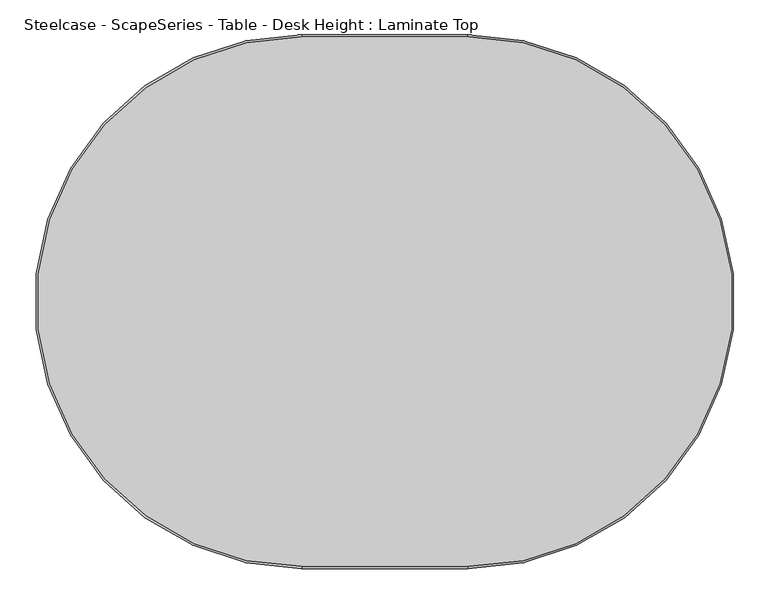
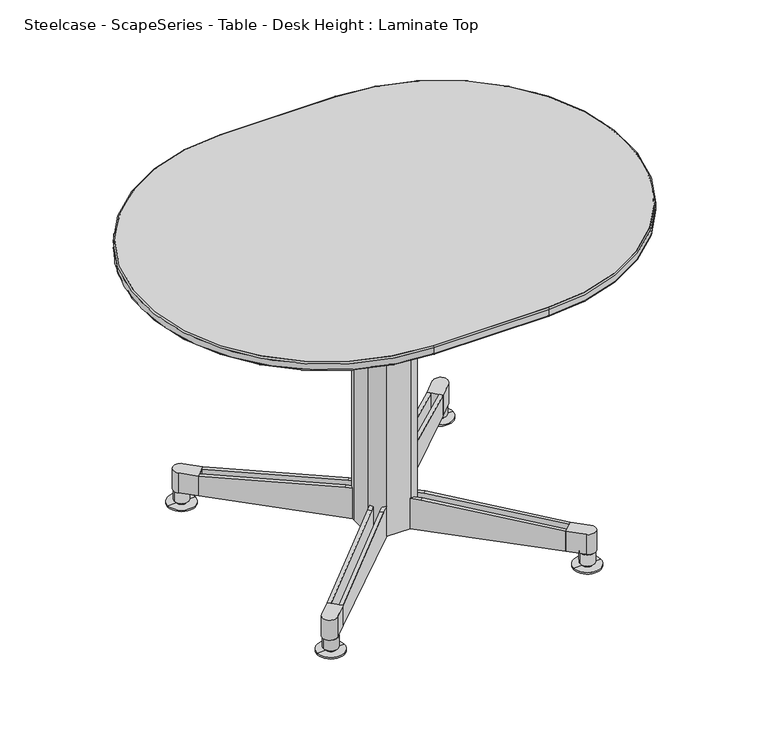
"""IFC4 building model written with IfcOpenShell, lengths in millimetres: furniture geometry, Steelcase - ScapeSeries - Table - Desk Height : Laminate Top."""

from ifc_helpers import new_model, si_unit, point, frame, frame_2d, origin, place, context, project, spatial, polyline, circle_curve, ellipse_curve, trimmed, segment, composite_curve, outline, extrude, source, transform, mapped, element, save
from ifc_brep_helpers import plane_surface, cylinder_surface, revolved_surface, advanced_brep


def steelcase_scapeseries_table_desk_height_laminate_top_100a6fdf(model_context):
    return source(origin(), model_context, "Body", "SolidModel", [
        extrude(outline(composite_curve([segment(polyline([(775.6296182, -670.9730843), (797.8126207, -648.2548062), (826.0804703, -676.5226558)]), True, "CONTINUOUS"), segment(trimmed(circle_curve(frame_2d((814.8551502, -687.7479759)), 15.875), [point((826.0804703, -676.5226558))], [point((803.62983, -698.9732961))], False, "CARTESIAN"), True, "CONTINUOUS"), segment(polyline([(803.62983, -698.9732961), (775.6296182, -670.9730843)]), True, "CONTINUOUS")], self_intersect=False)), frame((0.0, 0.0, 34.5059), z_axis=(0.0, 0.0, 1.0), x_axis=(1.0, 0.0, 0.0)), (0.0, 0.0, 1.0), 46.4657175),
        advanced_brep(
        [(812.6406532, -688.1219197, 0.0), (842.3401939, -688.1219197, 0.0), (782.9411126, -688.1219197, 0.0), (796.6878163, -688.1219197, 34.5059), (828.5934902, -688.1219197, 34.5059), (812.6406532, -688.1219197, 34.5059), (796.6878163, -688.1219197, 9.1059), (828.5934902, -688.1219197, 9.1059), (801.5942376, -688.1219197, 9.1059), (823.6870689, -688.1219197, 9.1059), (801.5942376, -688.1219197, 3.2766), (823.6870689, -688.1219197, 3.2766), (782.9411126, -688.1219197, 3.2766), (842.3401939, -688.1219197, 3.2766)],
        [
            (0, 1),
            (1, 2, circle_curve(frame((812.6406532, -688.1219197, 0.0), z_axis=(0.0, 0.0, -1.0), x_axis=(1.0, 0.0, 0.0)), 29.6995407)),
            (2, 0),
            (2, 1, circle_curve(frame((812.6406532, -688.1219197, 0.0), z_axis=(0.0, 0.0, -1.0), x_axis=(1.0, 0.0, 0.0)), 29.6995407)),
            (3, 4, circle_curve(frame((812.6406532, -688.1219197, 34.5059), z_axis=(0.0, 0.0, 1.0), x_axis=(1.0, 0.0, 0.0)), 15.9528369)),
            (4, 5),
            (5, 3),
            (4, 3, circle_curve(frame((812.6406532, -688.1219197, 34.5059), z_axis=(0.0, 0.0, 1.0), x_axis=(1.0, 0.0, 0.0)), 15.9528369)),
            (6, 7, circle_curve(frame((812.6406532, -688.1219197, 9.1059), z_axis=(0.0, 0.0, 1.0), x_axis=(1.0, 0.0, 0.0)), 15.9528369)),
            (7, 4),
            (3, 6),
            (7, 6, circle_curve(frame((812.6406532, -688.1219197, 9.1059), z_axis=(0.0, 0.0, 1.0), x_axis=(1.0, 0.0, 0.0)), 15.9528369)),
            (8, 9, circle_curve(frame((812.6406532, -688.1219197, 9.1059), z_axis=(0.0, 0.0, 1.0), x_axis=(1.0, 0.0, 0.0)), 11.0464157)),
            (9, 7),
            (6, 8),
            (9, 8, circle_curve(frame((812.6406532, -688.1219197, 9.1059), z_axis=(0.0, 0.0, 1.0), x_axis=(1.0, 0.0, 0.0)), 11.0464157)),
            (10, 11, circle_curve(frame((812.6406532, -688.1219197, 3.2766), z_axis=(0.0, 0.0, 1.0), x_axis=(1.0, 0.0, 0.0)), 11.0464157)),
            (11, 9),
            (8, 10),
            (11, 10, circle_curve(frame((812.6406532, -688.1219197, 3.2766), z_axis=(0.0, 0.0, 1.0), x_axis=(1.0, 0.0, 0.0)), 11.0464157)),
            (12, 13, circle_curve(frame((812.6406532, -688.1219197, 3.2766), z_axis=(0.0, 0.0, 1.0), x_axis=(1.0, 0.0, 0.0)), 29.6995407)),
            (13, 11),
            (10, 12),
            (13, 12, circle_curve(frame((812.6406532, -688.1219197, 3.2766), z_axis=(0.0, 0.0, 1.0), x_axis=(1.0, 0.0, 0.0)), 29.6995407)),
            (1, 13),
            (12, 2),
        ],
        [
            plane_surface(frame((812.6406532, -688.1219197, 0.0), z_axis=(0.0, 0.0, -1.0), x_axis=(1.0, 0.0, 0.0))),
            plane_surface(frame((812.6406532, -688.1219197, 34.5059), z_axis=(0.0, 0.0, 1.0), x_axis=(1.0, 0.0, 0.0))),
            cylinder_surface(frame((812.6406532, -688.1219197, 9.1059), z_axis=(0.0, 0.0, -1.0), x_axis=(1.0, 0.0, 0.0)), 15.9528369),
            plane_surface(frame((812.6406532, -688.1219197, 9.1059), z_axis=(0.0, 0.0, -1.0), x_axis=(1.0, 0.0, 0.0))),
            cylinder_surface(frame((812.6406532, -688.1219197, 9.1059), z_axis=(0.0, 0.0, -1.0), x_axis=(1.0, 0.0, 0.0)), 11.0464157),
            plane_surface(frame((812.6406532, -688.1219197, 3.2766), z_axis=(0.0, 0.0, 1.0), x_axis=(1.0, 0.0, 0.0))),
            cylinder_surface(frame((812.6406532, -688.1219197, 9.1059), z_axis=(0.0, 0.0, -1.0), x_axis=(1.0, 0.0, 0.0)), 29.6995407),
        ],
        [
            (0, [[1, 2, 3]]),
            (0, [[-3, 4, -1]]),
            (1, [[5, 6, 7]]),
            (1, [[8, -7, -6]]),
            (2, [[9, 10, -5, 11]]),
            (2, [[12, -11, -8, -10]]),
            (3, [[13, 14, -9, 15]]),
            (3, [[16, -15, -12, -14]]),
            (4, [[17, 18, -13, 19]]),
            (4, [[20, -19, -16, -18]]),
            (5, [[21, 22, -17, 23]]),
            (5, [[24, -23, -20, -22]]),
            (6, [[-2, 25, -21, 26]]),
            (6, [[-4, -26, -24, -25]]),
        ],
    ),
        advanced_brep(
        [(504.0325184, -352.425, 701.8528138), (478.6325184, -377.825, 701.8528138), (478.6325184, -431.8, 701.8528138), (504.0325184, -457.2, 701.8528138), (558.0075184, -457.2, 701.8528138), (583.4075184, -431.8, 701.8528138), (583.4075184, -377.825, 701.8528138), (558.0075184, -352.425, 701.8528138), (504.0325184, -352.425, 34.5059), (558.0075184, -352.425, 34.5059), (559.6416903, -352.4776238, 34.5059), (777.1247651, -140.1187649, 34.5059), (782.661201, -145.7887949, 34.5059), (568.6468613, -354.7606469, 34.5059), (580.2928069, -365.637879, 34.5059), (793.7824307, -157.1783797, 34.5059), (799.3188665, -162.8484096, 34.5059), (583.1119222, -373.9612055, 34.5059), (583.4075184, -377.825, 34.5059), (583.4075184, -431.8, 34.5059), (582.5724592, -438.2593874, 34.5059), (797.743822, -648.3610015, 34.5059), (792.2073861, -654.0310315, 34.5059), (579.1027628, -445.9474614, 34.5059), (566.3854261, -455.7785459, 34.5059), (781.0861564, -665.4206163, 34.5059), (775.5497206, -671.0906463, 34.5059), (556.680529, -457.3783296, 34.5059), (556.8546569, -457.2, 34.5059), (505.18538, -457.2, 34.5059), (505.3595078, -457.3783296, 34.5059), (286.4903162, -671.0906463, 34.5059), (280.9538804, -665.4206163, 34.5059), (495.6546107, -455.7785459, 34.5059), (482.937274, -445.9474614, 34.5059), (269.8326507, -654.0310315, 34.5059), (264.2962148, -648.3610015, 34.5059), (479.4675776, -438.2593874, 34.5059), (478.6325184, -431.8, 34.5059), (478.6325184, -377.825, 34.5059), (478.9281146, -373.9612055, 34.5059), (262.7211703, -162.8484096, 34.5059), (268.2576061, -157.1783797, 34.5059), (481.7472299, -365.637879, 34.5059), (493.3931755, -354.7606469, 34.5059), (279.3788358, -145.7887949, 34.5059), (284.9152717, -140.1187649, 34.5059), (502.3983465, -352.4776238, 34.5059), (502.3983465, -352.4776238, 104.4067), (493.3931755, -354.7606469, 104.4067), (481.7472299, -365.637879, 104.4067), (478.9281146, -373.9612055, 104.4067), (479.4675776, -438.2593874, 104.4067), (482.937274, -445.9474614, 104.4067), (495.6546107, -455.7785459, 104.4067), (504.0325184, -457.2, 104.4067), (505.18538, -457.2, 104.4067), (556.8546569, -457.2, 104.4067), (558.0075184, -457.2, 104.4067), (566.3854261, -455.7785459, 104.4067), (579.1027628, -445.9474614, 104.4067), (582.5724592, -438.2593874, 104.4067), (583.1119222, -373.9612055, 104.4067), (580.2928069, -365.637879, 104.4067), (568.6468613, -354.7606469, 104.4067), (559.6416903, -352.4776238, 104.4067), (572.1018041, -340.3110883, 104.4067), (777.1247651, -140.1187649, 80.7901888), (782.661201, -145.7887949, 80.7901888), (577.63824, -345.9811182, 104.4067), (588.7594697, -357.370703, 104.4067), (793.7824307, -157.1783797, 80.7901888), (799.3188665, -162.8484096, 80.7901888), (594.2959055, -363.040733, 104.4067), (284.9152717, -140.1187649, 80.7901888), (489.9382327, -340.3110883, 104.4067), (484.4017968, -345.9811182, 104.4067), (279.3788358, -145.7887949, 80.7901888), (268.2576061, -157.1783797, 80.7901888), (473.2805671, -357.370703, 104.4067), (467.7441313, -363.040733, 104.4067), (262.7211703, -162.8484096, 80.7901888), (473.2805671, -455.3766424, 104.4067), (269.8326507, -654.0310315, 80.9716175), (264.2962148, -648.3610015, 80.9716175), (467.7441313, -449.7066124, 104.4067), (505.3595078, -457.3783296, 104.4067), (489.9382327, -472.4362571, 104.4067), (286.4903162, -671.0906463, 80.9716175), (280.9538804, -665.4206163, 80.9716175), (484.4017968, -466.7662272, 104.4067), (792.2073861, -654.0310315, 80.9716175), (588.7594697, -455.3766424, 104.4067), (594.2959055, -449.7066124, 104.4067), (797.743822, -648.3610015, 80.9716175), (775.5497206, -671.0906463, 80.9716175), (572.1018041, -472.4362571, 104.4067), (556.680529, -457.3783296, 104.4067), (577.63824, -466.7662272, 104.4067), (781.0861564, -665.4206163, 80.9716175)],
        [
            (0, 1, circle_curve(frame((504.0325184, -377.825, 701.8528138), z_axis=(0.0, 0.0, 1.0), x_axis=(1.0, 0.0, 0.0)), 25.4)),
            (1, 2),
            (2, 3, circle_curve(frame((504.0325184, -431.8, 701.8528138), z_axis=(0.0, 0.0, 1.0), x_axis=(1.0, 0.0, 0.0)), 25.4)),
            (3, 4),
            (4, 5, circle_curve(frame((558.0075184, -431.8, 701.8528138), z_axis=(0.0, 0.0, 1.0), x_axis=(1.0, 0.0, 0.0)), 25.4)),
            (5, 6),
            (6, 7, circle_curve(frame((558.0075184, -377.825, 701.8528138), z_axis=(0.0, 0.0, 1.0), x_axis=(1.0, 0.0, 0.0)), 25.4)),
            (7, 0),
            (8, 9),
            (9, 10, circle_curve(frame((558.0075184, -377.825, 34.5059), z_axis=(0.0, 0.0, -1.0), x_axis=(1.0, 0.0, 0.0)), 25.4)),
            (10, 11),
            (11, 12),
            (12, 13),
            (13, 14, circle_curve(frame((558.0075184, -377.825, 34.5059), z_axis=(0.0, 0.0, -1.0), x_axis=(1.0, 0.0, 0.0)), 25.4)),
            (14, 15),
            (15, 16),
            (16, 17),
            (17, 18, circle_curve(frame((558.0075184, -377.825, 34.5059), z_axis=(0.0, 0.0, -1.0), x_axis=(1.0, 0.0, 0.0)), 25.4)),
            (18, 19),
            (19, 20, circle_curve(frame((558.0075184, -431.8, 34.5059), z_axis=(0.0, 0.0, -1.0), x_axis=(1.0, 0.0, 0.0)), 25.4)),
            (20, 21),
            (21, 22),
            (22, 23),
            (23, 24, circle_curve(frame((558.0075184, -431.8, 34.5059), z_axis=(0.0, 0.0, -1.0), x_axis=(1.0, 0.0, 0.0)), 25.4)),
            (24, 25),
            (25, 26),
            (26, 27),
            (27, 28),
            (28, 29),
            (29, 30),
            (30, 31),
            (31, 32),
            (32, 33),
            (33, 34, circle_curve(frame((504.0325184, -431.8, 34.5059), z_axis=(0.0, 0.0, -1.0), x_axis=(1.0, 0.0, 0.0)), 25.4)),
            (34, 35),
            (35, 36),
            (36, 37),
            (37, 38, circle_curve(frame((504.0325184, -431.8, 34.5059), z_axis=(0.0, 0.0, -1.0), x_axis=(1.0, 0.0, 0.0)), 25.4)),
            (38, 39),
            (39, 40, circle_curve(frame((504.0325184, -377.825, 34.5059), z_axis=(0.0, 0.0, -1.0), x_axis=(1.0, 0.0, 0.0)), 25.4)),
            (40, 41),
            (41, 42),
            (42, 43),
            (43, 44, circle_curve(frame((504.0325184, -377.825, 34.5059), z_axis=(0.0, 0.0, -1.0), x_axis=(1.0, 0.0, 0.0)), 25.4)),
            (44, 45),
            (45, 46),
            (46, 47),
            (47, 8, circle_curve(frame((504.0325184, -377.825, 34.5059), z_axis=(0.0, 0.0, -1.0), x_axis=(1.0, 0.0, 0.0)), 25.4)),
            (0, 8),
            (47, 48),
            (48, 49, circle_curve(frame((504.0325184, -377.825, 104.4067), z_axis=(0.0, 0.0, 1.0), x_axis=(1.0, 0.0, 0.0)), 25.4)),
            (49, 44),
            (43, 50),
            (50, 51, circle_curve(frame((504.0325184, -377.825, 104.4067), z_axis=(0.0, 0.0, 1.0), x_axis=(1.0, 0.0, 0.0)), 25.4)),
            (51, 40),
            (39, 1),
            (38, 2),
            (37, 52),
            (52, 53, circle_curve(frame((504.0325184, -431.8, 104.4067), z_axis=(0.0, 0.0, 1.0), x_axis=(1.0, 0.0, 0.0)), 25.4)),
            (53, 34),
            (33, 54),
            (54, 55, circle_curve(frame((504.0325184, -431.8, 104.4067), z_axis=(0.0, 0.0, 1.0), x_axis=(1.0, 0.0, 0.0)), 25.4)),
            (55, 3),
            (55, 56),
            (56, 29),
            (28, 57),
            (57, 58),
            (58, 4),
            (58, 59, circle_curve(frame((558.0075184, -431.8, 104.4067), z_axis=(0.0, 0.0, 1.0), x_axis=(1.0, 0.0, 0.0)), 25.4)),
            (59, 24),
            (23, 60),
            (60, 61, circle_curve(frame((558.0075184, -431.8, 104.4067), z_axis=(0.0, 0.0, 1.0), x_axis=(1.0, 0.0, 0.0)), 25.4)),
            (61, 20),
            (19, 5),
            (18, 6),
            (17, 62),
            (62, 63, circle_curve(frame((558.0075184, -377.825, 104.4067), z_axis=(0.0, 0.0, 1.0), x_axis=(1.0, 0.0, 0.0)), 25.4)),
            (63, 14),
            (13, 64),
            (64, 65, circle_curve(frame((558.0075184, -377.825, 104.4067), z_axis=(0.0, 0.0, 1.0), x_axis=(1.0, 0.0, 0.0)), 25.4)),
            (65, 10),
            (9, 7),
            (66, 67),
            (67, 11),
            (65, 66),
            (12, 68),
            (68, 69),
            (69, 64),
            (69, 66),
            (68, 67),
            (70, 71),
            (71, 15),
            (63, 70),
            (16, 72),
            (72, 73),
            (73, 62),
            (73, 70),
            (72, 71),
            (46, 74),
            (74, 75),
            (75, 48),
            (76, 77),
            (77, 45),
            (49, 76),
            (77, 74),
            (76, 75),
            (42, 78),
            (78, 79),
            (79, 50),
            (80, 81),
            (81, 41),
            (51, 80),
            (81, 78),
            (80, 79),
            (82, 83),
            (83, 35),
            (53, 82),
            (36, 84),
            (84, 85),
            (85, 52),
            (85, 82),
            (84, 83),
            (30, 86),
            (86, 87),
            (87, 88),
            (88, 31),
            (32, 89),
            (89, 90),
            (90, 54),
            (56, 86),
            (90, 87),
            (89, 88),
            (22, 91),
            (91, 92),
            (92, 60),
            (93, 94),
            (94, 21),
            (61, 93),
            (94, 91),
            (93, 92),
            (26, 95),
            (95, 96),
            (96, 97),
            (97, 27),
            (98, 99),
            (99, 25),
            (59, 98),
            (99, 95),
            (98, 96),
            (57, 97),
        ],
        [
            plane_surface(frame((529.4325184, -377.825, 701.8528138), z_axis=(0.0, 0.0, 1.0), x_axis=(0.0, 1.0, 0.0))),
            plane_surface(frame((529.4325184, -377.825, 34.5059), z_axis=(0.0, 0.0, -1.0), x_axis=(0.0, -1.0, 0.0))),
            cylinder_surface(frame((504.0325184, -377.825, 34.5059), z_axis=(0.0, 0.0, 1.0), x_axis=(1.0, 0.0, 0.0)), 25.4),
            plane_surface(frame((478.6325184, -377.825, 701.8528138), z_axis=(-1.0, 0.0, 0.0), x_axis=(0.0, 0.0, -1.0))),
            cylinder_surface(frame((504.0325184, -431.8, 34.5059), z_axis=(0.0, 0.0, 1.0), x_axis=(1.0, 0.0, 0.0)), 25.4),
            plane_surface(frame((504.0325184, -457.2, 701.8528138), z_axis=(0.0, -1.0, 0.0), x_axis=(0.0, 0.0, -1.0))),
            cylinder_surface(frame((558.0075184, -431.8, 34.5059), z_axis=(0.0, 0.0, 1.0), x_axis=(1.0, 0.0, 0.0)), 25.4),
            plane_surface(frame((583.4075184, -431.8, 701.8528138), z_axis=(1.0, 0.0, 0.0), x_axis=(0.0, 0.0, -1.0))),
            cylinder_surface(frame((558.0075184, -377.825, 34.5059), z_axis=(0.0, 0.0, 1.0), x_axis=(1.0, 0.0, 0.0)), 25.4),
            plane_surface(frame((558.0075184, -352.425, 701.8528138), z_axis=(0.0, 1.0, 0.0), x_axis=(0.0, 0.0, -1.0))),
            plane_surface(frame((737.5056053, -178.80444, 34.5059), z_axis=(-0.6986276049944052, 0.7154854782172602, 0.0), x_axis=(-0.7154854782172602, -0.6986276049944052, 0.0))),
            plane_surface(frame((743.0420411, -184.47447, 34.5059), z_axis=(0.6986276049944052, -0.7154854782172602, 0.0), x_axis=(0.7154854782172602, 0.6986276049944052, 0.0))),
            plane_surface(frame((556.680529, -355.3690158, 104.4067), z_axis=(0.0, 0.0, 1.0), x_axis=(0.6986276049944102, -0.7154854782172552, 0.0))),
            plane_surface(frame((572.1018041, -340.3110883, 104.4067), z_axis=(0.05876854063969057, 0.05738386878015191, 0.9966209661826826), x_axis=(0.6986276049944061, -0.7154854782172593, 0.0))),
            plane_surface(frame((777.1247651, -140.1187649, 80.7901888), z_axis=(0.7154854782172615, 0.6986276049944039, 0.0), x_axis=(0.6986276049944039, -0.7154854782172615, 0.0))),
            plane_surface(frame((754.1632708, -195.8640548, 34.5059), z_axis=(-0.6986276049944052, 0.71548547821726, 0.0), x_axis=(-0.71548547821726, -0.6986276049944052, 0.0))),
            plane_surface(frame((759.6997067, -201.5340847, 34.5059), z_axis=(0.6986276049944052, -0.71548547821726, 0.0), x_axis=(0.71548547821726, 0.6986276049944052, 0.0))),
            plane_surface(frame((573.3381946, -372.4286306, 104.4067), z_axis=(0.0, 0.0, 1.0000000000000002), x_axis=(0.6986276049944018, -0.7154854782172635, 0.0))),
            plane_surface(frame((588.7594697, -357.370703, 104.4067), z_axis=(0.058768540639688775, 0.05738386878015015, 0.9966209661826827), x_axis=(0.698627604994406, -0.7154854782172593, 0.0))),
            plane_surface(frame((793.7824307, -157.1783797, 80.7901888), z_axis=(0.7154854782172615, 0.6986276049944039, 0.0), x_axis=(0.6986276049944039, -0.7154854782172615, 0.0))),
            plane_surface(frame((284.9152717, -140.1187649, 75.7808986), z_axis=(0.6986276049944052, 0.71548547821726, 0.0), x_axis=(0.0, 0.0, 1.0))),
            plane_surface(frame((279.3788358, -145.7887949, 75.7808986), z_axis=(-0.6986276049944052, -0.71548547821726, 0.0), x_axis=(0.0, 0.0, -1.0))),
            plane_surface(frame((284.9152717, -140.1187649, 34.5059), z_axis=(-0.7154854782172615, 0.6986276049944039, 0.0), x_axis=(-0.6986276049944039, -0.7154854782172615, 0.0))),
            plane_surface(frame((284.9152717, -140.1187649, 80.7901888), z_axis=(-0.05876854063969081, 0.05738386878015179, 0.9966209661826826), x_axis=(-0.6986276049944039, -0.7154854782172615, 0.0))),
            plane_surface(frame((489.9382327, -340.3110883, 104.4067), z_axis=(0.0, 0.0, 1.0000000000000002), x_axis=(-0.6986276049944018, -0.7154854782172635, 0.0))),
            plane_surface(frame((268.2576061, -157.1783797, 75.7808986), z_axis=(0.6986276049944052, 0.71548547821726, 0.0), x_axis=(0.0, 0.0, 1.0))),
            plane_surface(frame((262.7211703, -162.8484096, 75.7808986), z_axis=(-0.6986276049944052, -0.71548547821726, 0.0), x_axis=(0.0, 0.0, -1.0))),
            plane_surface(frame((268.2576061, -157.1783797, 34.5059), z_axis=(-0.7154854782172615, 0.6986276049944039, 0.0), x_axis=(-0.6986276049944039, -0.7154854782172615, 0.0))),
            plane_surface(frame((268.2576061, -157.1783797, 80.7901888), z_axis=(-0.05876854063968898, 0.057383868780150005, 0.9966209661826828), x_axis=(-0.6986276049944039, -0.7154854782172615, 0.0))),
            plane_surface(frame((473.2805671, -357.370703, 104.4067), z_axis=(0.0, 0.0, 1.0000000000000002), x_axis=(-0.6986276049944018, -0.7154854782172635, 0.0))),
            plane_surface(frame((307.876766, -616.8832906, 34.5059), z_axis=(0.6986276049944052, -0.71548547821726, 0.0), x_axis=(0.71548547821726, 0.6986276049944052, 0.0))),
            plane_surface(frame((302.3403301, -611.2132607, 34.5059), z_axis=(-0.6986276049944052, 0.71548547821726, 0.0), x_axis=(-0.71548547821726, -0.6986276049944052, 0.0))),
            plane_surface(frame((488.7018423, -440.3187148, 104.4067), z_axis=(0.0, 0.0, 1.0000000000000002), x_axis=(-0.6986276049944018, 0.7154854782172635, 0.0))),
            plane_surface(frame((473.2805671, -455.3766424, 104.4067), z_axis=(-0.05876854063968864, -0.05738386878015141, 0.9966209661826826), x_axis=(-0.6986276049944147, 0.7154854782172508, 0.0))),
            plane_surface(frame((269.8326507, -654.0310315, 80.9716175), z_axis=(-0.7154854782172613, -0.6986276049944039, 0.0), x_axis=(-0.6986276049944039, 0.7154854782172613, 0.0))),
            plane_surface(frame((324.5344315, -633.9429054, 34.5059), z_axis=(0.6986276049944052, -0.71548547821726, 0.0), x_axis=(0.71548547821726, 0.6986276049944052, 0.0))),
            plane_surface(frame((318.9979957, -628.2728754, 34.5059), z_axis=(-0.6986276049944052, 0.71548547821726, 0.0), x_axis=(-0.71548547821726, -0.6986276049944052, 0.0))),
            plane_surface(frame((505.3595078, -457.3783296, 34.5059), z_axis=(0.7154854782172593, 0.6986276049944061, 0.0), x_axis=(-0.6986276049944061, 0.7154854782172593, 0.0))),
            plane_surface(frame((505.3595078, -457.3783296, 104.4067), z_axis=(0.0, 0.0, 1.0), x_axis=(-0.6986276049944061, 0.7154854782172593, 0.0))),
            plane_surface(frame((489.9382327, -472.4362571, 104.4067), z_axis=(-0.058768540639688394, -0.057383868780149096, 0.9966209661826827), x_axis=(-0.6986276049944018, 0.7154854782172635, 0.0))),
            plane_surface(frame((286.4903162, -671.0906463, 80.9716175), z_axis=(-0.7154854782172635, -0.6986276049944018, 0.0), x_axis=(-0.6986276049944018, 0.7154854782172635, 0.0))),
            plane_surface(frame((792.2073861, -654.0310315, 75.7808986), z_axis=(-0.6986276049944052, -0.71548547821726, 0.0), x_axis=(0.0, 0.0, 1.0))),
            plane_surface(frame((797.743822, -648.3610015, 75.7808986), z_axis=(0.6986276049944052, 0.71548547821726, 0.0), x_axis=(0.0, 0.0, -1.0))),
            plane_surface(frame((792.2073861, -654.0310315, 34.5059), z_axis=(0.7154854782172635, -0.6986276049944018, 0.0), x_axis=(0.6986276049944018, 0.7154854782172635, 0.0))),
            plane_surface(frame((792.2073861, -654.0310315, 80.9716175), z_axis=(0.058768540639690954, -0.057383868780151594, 0.9966209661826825), x_axis=(0.6986276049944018, 0.7154854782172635, 0.0))),
            plane_surface(frame((588.7594697, -455.3766424, 104.4067), z_axis=(0.0, 0.0, 1.0000000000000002), x_axis=(0.6986276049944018, 0.7154854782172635, 0.0))),
            plane_surface(frame((775.5497206, -671.0906463, 75.7808986), z_axis=(-0.6986276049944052, -0.71548547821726, 0.0), x_axis=(0.0, 0.0, 1.0))),
            plane_surface(frame((781.0861564, -665.4206163, 75.7808986), z_axis=(0.6986276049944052, 0.71548547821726, 0.0), x_axis=(0.0, 0.0, -1.0))),
            plane_surface(frame((775.5497206, -671.0906463, 34.5059), z_axis=(0.7154854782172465, -0.698627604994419, 0.0), x_axis=(0.698627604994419, 0.7154854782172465, 0.0))),
            plane_surface(frame((775.5497206, -671.0906463, 80.9716175), z_axis=(0.058768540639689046, -0.057383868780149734, 0.9966209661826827), x_axis=(0.6986276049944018, 0.7154854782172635, 0.0))),
            plane_surface(frame((572.1018041, -472.4362571, 104.4067), z_axis=(0.0, 0.0, 1.0000000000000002), x_axis=(0.6986276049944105, 0.715485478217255, 0.0))),
            plane_surface(frame((556.680529, -457.3783296, 104.4067), z_axis=(-0.7154854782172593, 0.698627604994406, 0.0), x_axis=(0.698627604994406, 0.7154854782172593, 0.0))),
        ],
        [
            (0, [[1, 2, 3, 4, 5, 6, 7, 8]]),
            (1, [[9, 10, 11, 12, 13, 14, 15, 16, 17, 18, 19, 20, 21, 22, 23, 24, 25, 26, 27, 28, 29, 30, 31, 32, 33, 34, 35, 36, 37, 38, 39, 40, 41, 42, 43, 44, 45, 46, 47, 48]]),
            (2, [[-1, 49, -48, 50, 51, 52, -44, 53, 54, 55, -40, 56]]),
            (3, [[-2, -56, -39, 57]]),
            (4, [[-3, -57, -38, 58, 59, 60, -34, 61, 62, 63]]),
            (5, [[-4, -63, 64, 65, -29, 66, 67, 68]]),
            (6, [[-5, -68, 69, 70, -24, 71, 72, 73, -20, 74]]),
            (7, [[-6, -74, -19, 75]]),
            (8, [[-7, -75, -18, 76, 77, 78, -14, 79, 80, 81, -10, 82]]),
            (9, [[-8, -82, -9, -49]]),
            (10, [[83, 84, -11, -81, 85]]),
            (11, [[86, 87, 88, -79, -13]]),
            (12, [[89, -85, -80, -88]]),
            (13, [[-83, -89, -87, 90]]),
            (14, [[-84, -90, -86, -12]]),
            (15, [[91, 92, -15, -78, 93]]),
            (16, [[94, 95, 96, -76, -17]]),
            (17, [[97, -93, -77, -96]]),
            (18, [[-91, -97, -95, 98]]),
            (19, [[-92, -98, -94, -16]]),
            (20, [[99, 100, 101, -50, -47]]),
            (21, [[102, 103, -45, -52, 104]]),
            (22, [[-99, -46, -103, 105]]),
            (23, [[-100, -105, -102, 106]]),
            (24, [[-106, -104, -51, -101]]),
            (25, [[107, 108, 109, -53, -43]]),
            (26, [[110, 111, -41, -55, 112]]),
            (27, [[-107, -42, -111, 113]]),
            (28, [[-108, -113, -110, 114]]),
            (29, [[-114, -112, -54, -109]]),
            (30, [[115, 116, -35, -60, 117]]),
            (31, [[118, 119, 120, -58, -37]]),
            (32, [[121, -117, -59, -120]]),
            (33, [[-115, -121, -119, 122]]),
            (34, [[-116, -122, -118, -36]]),
            (35, [[-31, 123, 124, 125, 126]]),
            (36, [[127, 128, 129, -61, -33]]),
            (37, [[-123, -30, -65, 130]]),
            (38, [[-124, -130, -64, -62, -129, 131]]),
            (39, [[-125, -131, -128, 132]]),
            (40, [[-126, -132, -127, -32]]),
            (41, [[133, 134, 135, -71, -23]]),
            (42, [[136, 137, -21, -73, 138]]),
            (43, [[-133, -22, -137, 139]]),
            (44, [[-134, -139, -136, 140]]),
            (45, [[-140, -138, -72, -135]]),
            (46, [[141, 142, 143, 144, -27]]),
            (47, [[145, 146, -25, -70, 147]]),
            (48, [[-141, -26, -146, 148]]),
            (49, [[-142, -148, -145, 149]]),
            (50, [[-143, -149, -147, -69, -67, 150]]),
            (51, [[-144, -150, -66, -28]]),
        ],
    ),
        extrude(outline(composite_curve([segment(polyline([(403.549088, -3.1755215), (657.1455263, -3.1755215)]), True, "CONTINUOUS"), segment(trimmed(circle_curve(frame_2d((657.1455263, -406.4351296)), 403.2596081), [point((657.1455263, -3.1755215))], [point((657.1455263, -809.6947377))], False, "CARTESIAN"), True, "CONTINUOUS"), segment(polyline([(657.1455263, -809.6947377), (403.549088, -809.6947377)]), True, "CONTINUOUS"), segment(trimmed(circle_curve(frame_2d((403.549088, -406.4351296)), 403.2596081), [point((403.549088, -809.6947377))], [point((403.549088, -3.1755215))], False, "CARTESIAN"), True, "CONTINUOUS")], self_intersect=False)), frame((0.0, 0.0, 706.4248), z_axis=(0.0, 0.0, 1.0), x_axis=(1.0, 0.0, 0.0)), (0.0, 0.0, 1.0), 20.0660138),
        advanced_brep(
        [(403.549088, -812.8000242, 709.5998242), (403.549088, -0.0004973, 709.5998242), (403.549088, -3.1755215, 706.4248), (403.549088, -809.625, 706.4248), (403.549088, -812.8000242, 723.3157896), (403.549088, -0.0004973, 723.3157896), (403.549088, -809.625, 726.4908138), (403.549088, -3.1755215, 726.4908138), (656.435316, -809.625, 706.4248), (656.435316, -812.8000242, 709.5998242), (656.435316, -812.8000242, 723.3157896), (656.435316, -809.625, 726.4908138), (656.435316, -0.0004973, 709.5998242), (656.435316, -3.1755215, 706.4248), (656.435316, -0.0004973, 723.3157896), (656.435316, -3.1755215, 726.4908138)],
        [
            (0, 1, circle_curve(frame((403.549088, -406.4002608, 709.5998242), z_axis=(0.0, 0.0, -1.0), x_axis=(0.0, 1.0, 0.0)), 406.3997635)),
            (1, 2, circle_curve(frame((403.549088, -3.1755215, 709.5998242), z_axis=(-1.0, 0.0, 0.0), x_axis=(0.0, -1.0, 0.0)), 3.1750242)),
            (2, 3, circle_curve(frame((403.549088, -406.4002608, 706.4248), z_axis=(0.0, 0.0, 1.0), x_axis=(0.0, 1.0, 0.0)), 403.2247392)),
            (3, 0, circle_curve(frame((403.549088, -809.625, 709.5998242), z_axis=(-1.0, 0.0, 0.0), x_axis=(0.0, 1.0, 0.0)), 3.1750242)),
            (4, 5, circle_curve(frame((403.549088, -406.4002608, 723.3157896), z_axis=(0.0, 0.0, -1.0), x_axis=(0.0, 1.0, 0.0)), 406.3997635)),
            (5, 1),
            (0, 4),
            (6, 7, circle_curve(frame((403.549088, -406.4002608, 726.4908138), z_axis=(0.0, 0.0, -1.0), x_axis=(0.0, 1.0, 0.0)), 403.2247392)),
            (7, 5, circle_curve(frame((403.549088, -3.1755215, 723.3157896), z_axis=(-1.0, 0.0, 0.0), x_axis=(0.0, -1.0, 0.0)), 3.1750242)),
            (4, 6, circle_curve(frame((403.549088, -809.625, 723.3157896), z_axis=(-1.0, 0.0, 0.0), x_axis=(0.0, 1.0, 0.0)), 3.1750242)),
            (2, 7),
            (6, 3),
            (3, 8),
            (8, 9, circle_curve(frame((656.435316, -809.625, 709.5998242), z_axis=(-1.0, 0.0, 0.0), x_axis=(0.0, 1.0, 0.0)), 3.1750242)),
            (9, 0),
            (9, 10),
            (10, 4),
            (10, 11, circle_curve(frame((656.435316, -809.625, 723.3157896), z_axis=(-1.0, 0.0, 0.0), x_axis=(0.0, 1.0, 0.0)), 3.1750242)),
            (11, 6),
            (11, 8),
            (12, 9, circle_curve(frame((656.435316, -406.4002608, 709.5998242), z_axis=(0.0, 0.0, -1.0), x_axis=(0.0, -1.0, 0.0)), 406.3997635)),
            (8, 13, circle_curve(frame((656.435316, -406.4002608, 706.4248), z_axis=(0.0, 0.0, 1.0), x_axis=(0.0, -1.0, 0.0)), 403.2247392)),
            (13, 12, circle_curve(frame((656.435316, -3.1755215, 709.5998242), z_axis=(1.0, 0.0, 0.0), x_axis=(0.0, -1.0, 0.0)), 3.1750242)),
            (14, 10, circle_curve(frame((656.435316, -406.4002608, 723.3157896), z_axis=(0.0, 0.0, -1.0), x_axis=(0.0, -1.0, 0.0)), 406.3997635)),
            (12, 14),
            (15, 11, circle_curve(frame((656.435316, -406.4002608, 726.4908138), z_axis=(0.0, 0.0, -1.0), x_axis=(0.0, -1.0, 0.0)), 403.2247392)),
            (14, 15, circle_curve(frame((656.435316, -3.1755215, 723.3157896), z_axis=(1.0, 0.0, 0.0), x_axis=(0.0, -1.0, 0.0)), 3.1750242)),
            (15, 13),
            (13, 2),
            (1, 12),
            (5, 14),
            (7, 15),
        ],
        [
            revolved_surface(trimmed(ellipse_curve(frame((403.549088, -3.1755215, 709.5998242), z_axis=(1.0, 0.0, 0.0), x_axis=(0.0, -1.0, 0.0)), 3.1750242, 3.1750242), [point((403.549088, -3.1755215, 706.4248))], [point((403.549088, -0.0004973, 709.5998242))], True, "CARTESIAN"), (403.549088, -406.4002608, 139.6974738), (0.0, 0.0, 1.0)),
            cylinder_surface(frame((403.549088, -406.4002608, 139.6974738), z_axis=(0.0, 0.0, 1.0), x_axis=(0.0, 1.0, 0.0)), 406.3997635),
            revolved_surface(trimmed(ellipse_curve(frame((403.549088, -3.1755215, 723.3157896), z_axis=(1.0, 0.0, 0.0), x_axis=(0.0, -1.0, 0.0)), 3.1750242, 3.1750242), [point((403.549088, -0.0004973, 723.3157896))], [point((403.549088, -3.1755215, 726.4908138))], True, "CARTESIAN"), (403.549088, -406.4002608, 139.6974738), (0.0, 0.0, 1.0)),
            revolved_surface(polyline([(403.549088, -3.1755216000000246, 726.4908138), (403.549088, -3.1755216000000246, 706.4248)]), (403.549088, -406.4002608, 139.6974738), (0.0, 0.0, 1.0)),
            cylinder_surface(frame((403.549088, -809.625, 709.5998242), z_axis=(-1.0, 0.0, 0.0), x_axis=(0.0, 1.0, 0.0)), 3.1750242),
            plane_surface(frame((403.549088, -812.8000242, 709.5998242), z_axis=(0.0, -1.0, 0.0), x_axis=(1.0, 0.0, 0.0))),
            cylinder_surface(frame((403.549088, -809.625, 723.3157896), z_axis=(-1.0, 0.0, 0.0), x_axis=(0.0, 1.0, 0.0)), 3.1750242),
            plane_surface(frame((403.549088, -809.625, 726.4908138), z_axis=(0.0, 1.0, 0.0), x_axis=(1.0, 0.0, 0.0))),
            revolved_surface(trimmed(ellipse_curve(frame((656.435316, -809.625, 709.5998242), z_axis=(-1.0, 0.0, 0.0), x_axis=(0.0, 1.0, 0.0)), 3.1750242, 3.1750242), [point((656.435316, -809.625, 706.4248))], [point((656.435316, -812.8000242, 709.5998242))], True, "CARTESIAN"), (656.435316, -406.4002608, 139.6974738), (0.0, 0.0, 1.0)),
            cylinder_surface(frame((656.435316, -406.4002608, 139.6974738), z_axis=(0.0, 0.0, 1.0), x_axis=(0.0, -1.0, 0.0)), 406.3997635),
            revolved_surface(trimmed(ellipse_curve(frame((656.435316, -809.625, 723.3157896), z_axis=(-1.0, 0.0, 0.0), x_axis=(0.0, 1.0, 0.0)), 3.1750242, 3.1750242), [point((656.435316, -812.8000242, 723.3157896))], [point((656.435316, -809.625, 726.4908138))], True, "CARTESIAN"), (656.435316, -406.4002608, 139.6974738), (0.0, 0.0, 1.0)),
            revolved_surface(polyline([(656.435316, -809.625, 726.4908138), (656.435316, -809.625, 706.4248)]), (656.435316, -406.4002608, 139.6974738), (0.0, 0.0, 1.0)),
            cylinder_surface(frame((656.435316, -3.1755215, 709.5998242), z_axis=(1.0, 0.0, 0.0), x_axis=(0.0, -1.0, 0.0)), 3.1750242),
            plane_surface(frame((656.435316, -0.0004973, 709.5998242), z_axis=(0.0, 1.0, 0.0), x_axis=(-1.0, 0.0, 0.0))),
            cylinder_surface(frame((656.435316, -3.1755215, 723.3157896), z_axis=(1.0, 0.0, 0.0), x_axis=(0.0, -1.0, 0.0)), 3.1750242),
            plane_surface(frame((656.435316, -3.1755215, 726.4908138), z_axis=(0.0, -1.0, 0.0), x_axis=(-1.0, 0.0, 0.0))),
        ],
        [
            (0, [[1, 2, 3, 4]]),
            (1, [[5, 6, -1, 7]]),
            (2, [[8, 9, -5, 10]]),
            (3, [[-3, 11, -8, 12]]),
            (4, [[-4, 13, 14, 15]]),
            (5, [[-7, -15, 16, 17]]),
            (6, [[-10, -17, 18, 19]]),
            (7, [[-12, -19, 20, -13]]),
            (8, [[21, -14, 22, 23]]),
            (9, [[24, -16, -21, 25]]),
            (10, [[26, -18, -24, 27]]),
            (11, [[-22, -20, -26, 28]]),
            (12, [[-23, 29, -2, 30]]),
            (13, [[-25, -30, -6, 31]]),
            (14, [[-27, -31, -9, 32]]),
            (15, [[-28, -32, -11, -29]]),
        ],
    ),
        extrude(outline(composite_curve([segment(polyline([(286.4104186, -670.9730843), (258.4102068, -698.9732961)]), True, "CONTINUOUS"), segment(trimmed(circle_curve(frame_2d((247.1848866, -687.7479759)), 15.875), [point((258.4102068, -698.9732961))], [point((235.9595665, -676.5226558))], False, "CARTESIAN"), True, "CONTINUOUS"), segment(polyline([(235.9595665, -676.5226558), (264.2274161, -648.2548062), (286.4104186, -670.9730843)]), True, "CONTINUOUS")], self_intersect=False)), frame((0.0, 0.0, 34.5059), z_axis=(0.0, 0.0, 1.0), x_axis=(1.0, 0.0, 0.0)), (0.0, 0.0, 1.0), 46.4657175),
        advanced_brep(
        [(279.0989243, -688.1219197, 3.2766), (219.6998429, -688.1219197, 3.2766), (219.6998429, -688.1219197, 0.0), (279.0989243, -688.1219197, 0.0), (260.4457993, -688.1219197, 3.2766), (238.3529679, -688.1219197, 3.2766), (260.4457993, -688.1219197, 9.1059), (238.3529679, -688.1219197, 9.1059), (265.3522205, -688.1219197, 9.1059), (233.4465467, -688.1219197, 9.1059), (265.3522205, -688.1219197, 34.5059), (233.4465467, -688.1219197, 34.5059), (249.3993836, -688.1219197, 34.5059), (249.3993836, -688.1219197, 0.0)],
        [
            (0, 1, circle_curve(frame((249.3993836, -688.1219197, 3.2766), z_axis=(0.0, 0.0, -1.0), x_axis=(-1.0, 0.0, 0.0)), 29.6995407)),
            (1, 2),
            (2, 3, circle_curve(frame((249.3993836, -688.1219197, 0.0), z_axis=(0.0, 0.0, 1.0), x_axis=(-1.0, 0.0, 0.0)), 29.6995407)),
            (3, 0),
            (1, 0, circle_curve(frame((249.3993836, -688.1219197, 3.2766), z_axis=(0.0, 0.0, -1.0), x_axis=(-1.0, 0.0, 0.0)), 29.6995407)),
            (3, 2, circle_curve(frame((249.3993836, -688.1219197, 0.0), z_axis=(0.0, 0.0, 1.0), x_axis=(-1.0, 0.0, 0.0)), 29.6995407)),
            (4, 5, circle_curve(frame((249.3993836, -688.1219197, 3.2766), z_axis=(0.0, 0.0, -1.0), x_axis=(-1.0, 0.0, 0.0)), 11.0464157)),
            (5, 1),
            (0, 4),
            (5, 4, circle_curve(frame((249.3993836, -688.1219197, 3.2766), z_axis=(0.0, 0.0, -1.0), x_axis=(-1.0, 0.0, 0.0)), 11.0464157)),
            (6, 7, circle_curve(frame((249.3993836, -688.1219197, 9.1059), z_axis=(0.0, 0.0, -1.0), x_axis=(-1.0, 0.0, 0.0)), 11.0464157)),
            (7, 5),
            (4, 6),
            (7, 6, circle_curve(frame((249.3993836, -688.1219197, 9.1059), z_axis=(0.0, 0.0, -1.0), x_axis=(-1.0, 0.0, 0.0)), 11.0464157)),
            (8, 9, circle_curve(frame((249.3993836, -688.1219197, 9.1059), z_axis=(0.0, 0.0, -1.0), x_axis=(-1.0, 0.0, 0.0)), 15.9528369)),
            (9, 7),
            (6, 8),
            (9, 8, circle_curve(frame((249.3993836, -688.1219197, 9.1059), z_axis=(0.0, 0.0, -1.0), x_axis=(-1.0, 0.0, 0.0)), 15.9528369)),
            (10, 11, circle_curve(frame((249.3993836, -688.1219197, 34.5059), z_axis=(0.0, 0.0, -1.0), x_axis=(-1.0, 0.0, 0.0)), 15.9528369)),
            (11, 9),
            (8, 10),
            (11, 10, circle_curve(frame((249.3993836, -688.1219197, 34.5059), z_axis=(0.0, 0.0, -1.0), x_axis=(-1.0, 0.0, 0.0)), 15.9528369)),
            (12, 11),
            (10, 12),
            (2, 13),
            (13, 3),
        ],
        [
            cylinder_surface(frame((249.3993836, -688.1219197, 9.1059), z_axis=(0.0, 0.0, 1.0), x_axis=(-1.0, 0.0, 0.0)), 29.6995407),
            plane_surface(frame((249.3993836, -688.1219197, 3.2766), z_axis=(0.0, 0.0, 1.0), x_axis=(-1.0, 0.0, 0.0))),
            cylinder_surface(frame((249.3993836, -688.1219197, 9.1059), z_axis=(0.0, 0.0, 1.0), x_axis=(-1.0, 0.0, 0.0)), 11.0464157),
            plane_surface(frame((249.3993836, -688.1219197, 9.1059), z_axis=(0.0, 0.0, -1.0), x_axis=(-1.0, 0.0, 0.0))),
            cylinder_surface(frame((249.3993836, -688.1219197, 9.1059), z_axis=(0.0, 0.0, 1.0), x_axis=(-1.0, 0.0, 0.0)), 15.9528369),
            plane_surface(frame((249.3993836, -688.1219197, 34.5059), z_axis=(0.0, 0.0, 1.0), x_axis=(-1.0, 0.0, 0.0))),
            plane_surface(frame((249.3993836, -688.1219197, 0.0), z_axis=(0.0, 0.0, -1.0), x_axis=(-1.0, 0.0, 0.0))),
        ],
        [
            (0, [[1, 2, 3, 4]]),
            (0, [[5, -4, 6, -2]]),
            (1, [[7, 8, -1, 9]]),
            (1, [[10, -9, -5, -8]]),
            (2, [[11, 12, -7, 13]]),
            (2, [[14, -13, -10, -12]]),
            (3, [[15, 16, -11, 17]]),
            (3, [[18, -17, -14, -16]]),
            (4, [[19, 20, -15, 21]]),
            (4, [[22, -21, -18, -20]]),
            (5, [[23, -19, 24]]),
            (5, [[-24, -22, -23]]),
            (6, [[-3, 25, 26]]),
            (6, [[-6, -26, -25]]),
        ],
    ),
        extrude(outline(composite_curve([segment(polyline([(777.1106162, -140.1329138), (805.1108281, -112.132702)]), True, "CONTINUOUS"), segment(trimmed(circle_curve(frame_2d((816.3361482, -123.3580221)), 15.875), [point((805.1108281, -112.132702))], [point((827.5614684, -134.5833423))], False, "CARTESIAN"), True, "CONTINUOUS"), segment(polyline([(827.5614684, -134.5833423), (799.2936188, -162.8511918), (777.1106162, -140.1329138)]), True, "CONTINUOUS")], self_intersect=False)), frame((0.0, 0.0, 34.5059), z_axis=(0.0, 0.0, 1.0), x_axis=(1.0, 0.0, 0.0)), (0.0, 0.0, 1.0), 46.2842888),
        advanced_brep(
        [(784.4221106, -122.9840783, 3.2766), (843.821192, -122.9840783, 3.2766), (843.821192, -122.9840783, 0.0), (784.4221106, -122.9840783, 0.0), (803.0752356, -122.9840783, 3.2766), (825.168067, -122.9840783, 3.2766), (803.0752356, -122.9840783, 9.1059), (825.168067, -122.9840783, 9.1059), (798.1688144, -122.9840783, 9.1059), (830.0744882, -122.9840783, 9.1059), (798.1688144, -122.9840783, 34.5059), (830.0744882, -122.9840783, 34.5059), (814.1216513, -122.9840783, 34.5059), (814.1216513, -122.9840783, 0.0)],
        [
            (0, 1, circle_curve(frame((814.1216513, -122.9840783, 3.2766), z_axis=(0.0, 0.0, -1.0), x_axis=(1.0, 0.0, 0.0)), 29.6995407)),
            (1, 2),
            (2, 3, circle_curve(frame((814.1216513, -122.9840783, 0.0), z_axis=(0.0, 0.0, 1.0), x_axis=(1.0, 0.0, 0.0)), 29.6995407)),
            (3, 0),
            (1, 0, circle_curve(frame((814.1216513, -122.9840783, 3.2766), z_axis=(0.0, 0.0, -1.0), x_axis=(1.0, 0.0, 0.0)), 29.6995407)),
            (3, 2, circle_curve(frame((814.1216513, -122.9840783, 0.0), z_axis=(0.0, 0.0, 1.0), x_axis=(1.0, 0.0, 0.0)), 29.6995407)),
            (4, 5, circle_curve(frame((814.1216513, -122.9840783, 3.2766), z_axis=(0.0, 0.0, -1.0), x_axis=(1.0, 0.0, 0.0)), 11.0464157)),
            (5, 1),
            (0, 4),
            (5, 4, circle_curve(frame((814.1216513, -122.9840783, 3.2766), z_axis=(0.0, 0.0, -1.0), x_axis=(1.0, 0.0, 0.0)), 11.0464157)),
            (6, 7, circle_curve(frame((814.1216513, -122.9840783, 9.1059), z_axis=(0.0, 0.0, -1.0), x_axis=(1.0, 0.0, 0.0)), 11.0464157)),
            (7, 5),
            (4, 6),
            (7, 6, circle_curve(frame((814.1216513, -122.9840783, 9.1059), z_axis=(0.0, 0.0, -1.0), x_axis=(1.0, 0.0, 0.0)), 11.0464157)),
            (8, 9, circle_curve(frame((814.1216513, -122.9840783, 9.1059), z_axis=(0.0, 0.0, -1.0), x_axis=(1.0, 0.0, 0.0)), 15.9528369)),
            (9, 7),
            (6, 8),
            (9, 8, circle_curve(frame((814.1216513, -122.9840783, 9.1059), z_axis=(0.0, 0.0, -1.0), x_axis=(1.0, 0.0, 0.0)), 15.9528369)),
            (10, 11, circle_curve(frame((814.1216513, -122.9840783, 34.5059), z_axis=(0.0, 0.0, -1.0), x_axis=(1.0, 0.0, 0.0)), 15.9528369)),
            (11, 9),
            (8, 10),
            (11, 10, circle_curve(frame((814.1216513, -122.9840783, 34.5059), z_axis=(0.0, 0.0, -1.0), x_axis=(1.0, 0.0, 0.0)), 15.9528369)),
            (12, 11),
            (10, 12),
            (2, 13),
            (13, 3),
        ],
        [
            cylinder_surface(frame((814.1216513, -122.9840783, 9.1059), z_axis=(0.0, 0.0, 1.0), x_axis=(1.0, 0.0, 0.0)), 29.6995407),
            plane_surface(frame((814.1216513, -122.9840783, 3.2766), z_axis=(0.0, 0.0, 1.0), x_axis=(1.0, 0.0, 0.0))),
            cylinder_surface(frame((814.1216513, -122.9840783, 9.1059), z_axis=(0.0, 0.0, 1.0), x_axis=(1.0, 0.0, 0.0)), 11.0464157),
            plane_surface(frame((814.1216513, -122.9840783, 9.1059), z_axis=(0.0, 0.0, -1.0), x_axis=(1.0, 0.0, 0.0))),
            cylinder_surface(frame((814.1216513, -122.9840783, 9.1059), z_axis=(0.0, 0.0, 1.0), x_axis=(1.0, 0.0, 0.0)), 15.9528369),
            plane_surface(frame((814.1216513, -122.9840783, 34.5059), z_axis=(0.0, 0.0, 1.0), x_axis=(1.0, 0.0, 0.0))),
            plane_surface(frame((814.1216513, -122.9840783, 0.0), z_axis=(0.0, 0.0, -1.0), x_axis=(1.0, 0.0, 0.0))),
        ],
        [
            (0, [[1, 2, 3, 4]]),
            (0, [[5, -4, 6, -2]]),
            (1, [[7, 8, -1, 9]]),
            (1, [[10, -9, -5, -8]]),
            (2, [[11, 12, -7, 13]]),
            (2, [[14, -13, -10, -12]]),
            (3, [[15, 16, -11, 17]]),
            (3, [[18, -17, -14, -16]]),
            (4, [[19, 20, -15, 21]]),
            (4, [[22, -21, -18, -20]]),
            (5, [[23, -19, 24]]),
            (5, [[-24, -22, -23]]),
            (6, [[-3, 25, 26]]),
            (6, [[-6, -26, -25]]),
        ],
    ),
        extrude(outline(composite_curve([segment(polyline([(284.9294206, -140.1329138), (262.746418, -162.8511918), (234.4785684, -134.5833423)]), True, "CONTINUOUS"), segment(trimmed(circle_curve(frame_2d((245.7038886, -123.3580221)), 15.875), [point((234.4785684, -134.5833423))], [point((256.9292087, -112.132702))], False, "CARTESIAN"), True, "CONTINUOUS"), segment(polyline([(256.9292087, -112.132702), (284.9294206, -140.1329138)]), True, "CONTINUOUS")], self_intersect=False)), frame((0.0, 0.0, 34.5059), z_axis=(0.0, 0.0, 1.0), x_axis=(1.0, 0.0, 0.0)), (0.0, 0.0, 1.0), 46.2842888),
        advanced_brep(
        [(247.9183855, -122.9840783, 0.0), (218.2188448, -122.9840783, 0.0), (277.6179262, -122.9840783, 0.0), (263.8712224, -122.9840783, 34.5059), (231.9655486, -122.9840783, 34.5059), (247.9183855, -122.9840783, 34.5059), (263.8712224, -122.9840783, 9.1059), (231.9655486, -122.9840783, 9.1059), (258.9648012, -122.9840783, 9.1059), (236.8719698, -122.9840783, 9.1059), (258.9648012, -122.9840783, 3.2766), (236.8719698, -122.9840783, 3.2766), (277.6179262, -122.9840783, 3.2766), (218.2188448, -122.9840783, 3.2766)],
        [
            (0, 1),
            (1, 2, circle_curve(frame((247.9183855, -122.9840783, 0.0), z_axis=(0.0, 0.0, -1.0), x_axis=(-1.0, 0.0, 0.0)), 29.6995407)),
            (2, 0),
            (2, 1, circle_curve(frame((247.9183855, -122.9840783, 0.0), z_axis=(0.0, 0.0, -1.0), x_axis=(-1.0, 0.0, 0.0)), 29.6995407)),
            (3, 4, circle_curve(frame((247.9183855, -122.9840783, 34.5059), z_axis=(0.0, 0.0, 1.0), x_axis=(-1.0, 0.0, 0.0)), 15.9528369)),
            (4, 5),
            (5, 3),
            (4, 3, circle_curve(frame((247.9183855, -122.9840783, 34.5059), z_axis=(0.0, 0.0, 1.0), x_axis=(-1.0, 0.0, 0.0)), 15.9528369)),
            (6, 7, circle_curve(frame((247.9183855, -122.9840783, 9.1059), z_axis=(0.0, 0.0, 1.0), x_axis=(-1.0, 0.0, 0.0)), 15.9528369)),
            (7, 4),
            (3, 6),
            (7, 6, circle_curve(frame((247.9183855, -122.9840783, 9.1059), z_axis=(0.0, 0.0, 1.0), x_axis=(-1.0, 0.0, 0.0)), 15.9528369)),
            (8, 9, circle_curve(frame((247.9183855, -122.9840783, 9.1059), z_axis=(0.0, 0.0, 1.0), x_axis=(-1.0, 0.0, 0.0)), 11.0464157)),
            (9, 7),
            (6, 8),
            (9, 8, circle_curve(frame((247.9183855, -122.9840783, 9.1059), z_axis=(0.0, 0.0, 1.0), x_axis=(-1.0, 0.0, 0.0)), 11.0464157)),
            (10, 11, circle_curve(frame((247.9183855, -122.9840783, 3.2766), z_axis=(0.0, 0.0, 1.0), x_axis=(-1.0, 0.0, 0.0)), 11.0464157)),
            (11, 9),
            (8, 10),
            (11, 10, circle_curve(frame((247.9183855, -122.9840783, 3.2766), z_axis=(0.0, 0.0, 1.0), x_axis=(-1.0, 0.0, 0.0)), 11.0464157)),
            (12, 13, circle_curve(frame((247.9183855, -122.9840783, 3.2766), z_axis=(0.0, 0.0, 1.0), x_axis=(-1.0, 0.0, 0.0)), 29.6995407)),
            (13, 11),
            (10, 12),
            (13, 12, circle_curve(frame((247.9183855, -122.9840783, 3.2766), z_axis=(0.0, 0.0, 1.0), x_axis=(-1.0, 0.0, 0.0)), 29.6995407)),
            (1, 13),
            (12, 2),
        ],
        [
            plane_surface(frame((247.9183855, -122.9840783, 0.0), z_axis=(0.0, 0.0, -1.0), x_axis=(-1.0, 0.0, 0.0))),
            plane_surface(frame((247.9183855, -122.9840783, 34.5059), z_axis=(0.0, 0.0, 1.0), x_axis=(-1.0, 0.0, 0.0))),
            cylinder_surface(frame((247.9183855, -122.9840783, 9.1059), z_axis=(0.0, 0.0, -1.0), x_axis=(-1.0, 0.0, 0.0)), 15.9528369),
            plane_surface(frame((247.9183855, -122.9840783, 9.1059), z_axis=(0.0, 0.0, -1.0), x_axis=(-1.0, 0.0, 0.0))),
            cylinder_surface(frame((247.9183855, -122.9840783, 9.1059), z_axis=(0.0, 0.0, -1.0), x_axis=(-1.0, 0.0, 0.0)), 11.0464157),
            plane_surface(frame((247.9183855, -122.9840783, 3.2766), z_axis=(0.0, 0.0, 1.0), x_axis=(-1.0, 0.0, 0.0))),
            cylinder_surface(frame((247.9183855, -122.9840783, 9.1059), z_axis=(0.0, 0.0, -1.0), x_axis=(-1.0, 0.0, 0.0)), 29.6995407),
        ],
        [
            (0, [[1, 2, 3]]),
            (0, [[-3, 4, -1]]),
            (1, [[5, 6, 7]]),
            (1, [[8, -7, -6]]),
            (2, [[9, 10, -5, 11]]),
            (2, [[12, -11, -8, -10]]),
            (3, [[13, 14, -9, 15]]),
            (3, [[16, -15, -12, -14]]),
            (4, [[17, 18, -13, 19]]),
            (4, [[20, -19, -16, -18]]),
            (5, [[21, 22, -17, 23]]),
            (5, [[24, -23, -20, -22]]),
            (6, [[-2, 25, -21, 26]]),
            (6, [[-4, -26, -24, -25]]),
        ],
    ),
        extrude(outline(composite_curve([segment(trimmed(circle_curve(frame_2d((632.5201801, -404.8125)), 127.0), [point((632.5201801, -277.8125))], [point((632.5201801, -531.8125))], False, "CARTESIAN"), True, "CONTINUOUS"), segment(polyline([(632.5201801, -531.8125), (429.9870592, -531.8125)]), True, "CONTINUOUS"), segment(trimmed(circle_curve(frame_2d((429.9870592, -404.8125)), 127.0), [point((429.9870592, -531.8125))], [point((429.9870592, -277.8125))], False, "CARTESIAN"), True, "CONTINUOUS"), segment(polyline([(429.9870592, -277.8125), (632.5201801, -277.8125)]), True, "CONTINUOUS")], self_intersect=False)), frame((0.0, 0.0, 701.8528138), z_axis=(0.0, 0.0, 1.0), x_axis=(1.0, 0.0, 0.0)), (0.0, 0.0, 1.0), 4.5719862),
    ])


if __name__ == "__main__":
    model = new_model("IFC4")
    model_context = context("Model", 3, world=origin())
    ifc_project = project(units=[si_unit("LENGTHUNIT", "METRE", prefix="MILLI")], contexts=[model_context])
    site = spatial("IfcSite", under=ifc_project)
    building = spatial("IfcBuilding", under=site)
    placement = place(None, origin())
    steelcase_scapeseries_table_desk_height_laminate_top_shape = steelcase_scapeseries_table_desk_height_laminate_top_100a6fdf(model_context)
    element("IfcFurniture", 1, ObjectType="Steelcase - ScapeSeries - Table - Desk Height : Laminate Top", at=placement, inside=building, context=model_context, shape_type="MappedRepresentation", body=[
        mapped(steelcase_scapeseries_table_desk_height_laminate_top_shape, transform((0.0, 0.0, 0.0), x_axis=(1.0, 0.0, 0.0), y_axis=(0.0, 1.0, 0.0), z_axis=(0.0, 0.0, 1.0))),
    ])
    save(model, "model.ifc")
